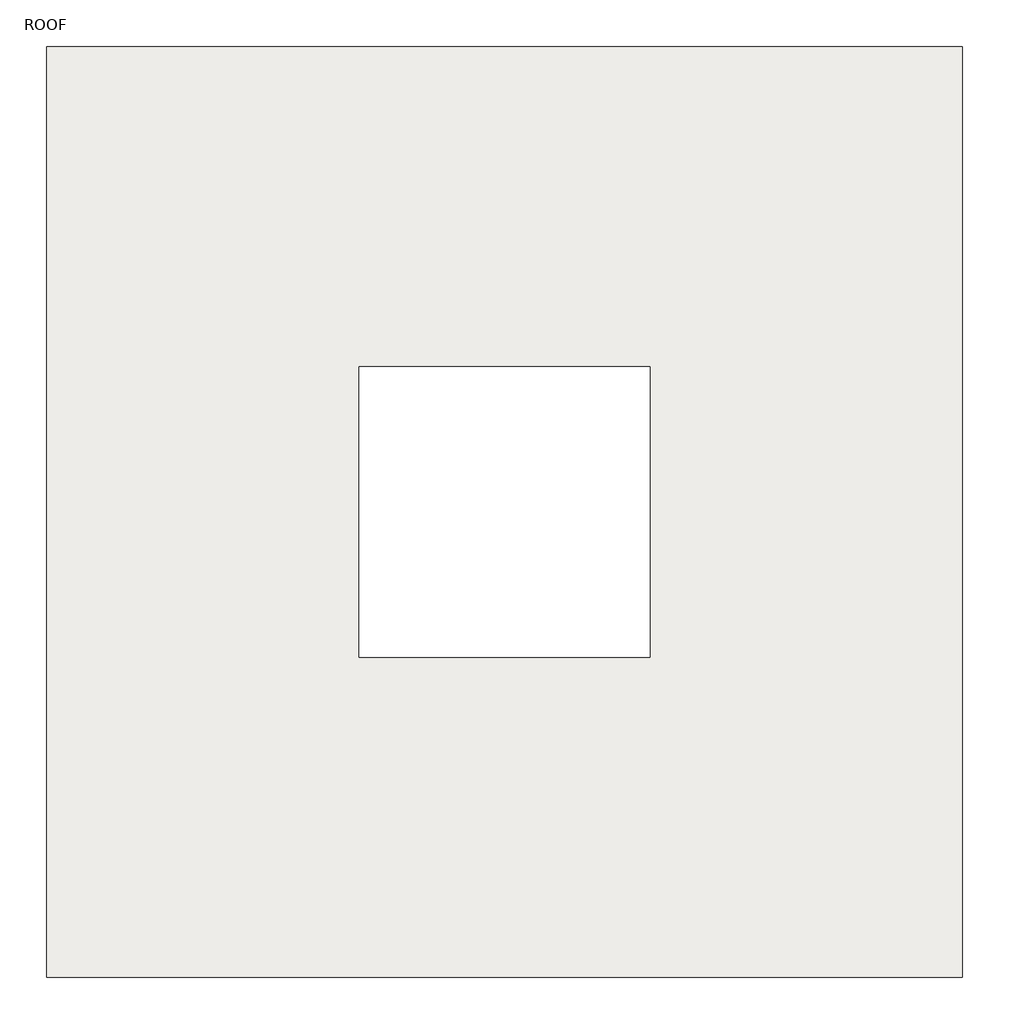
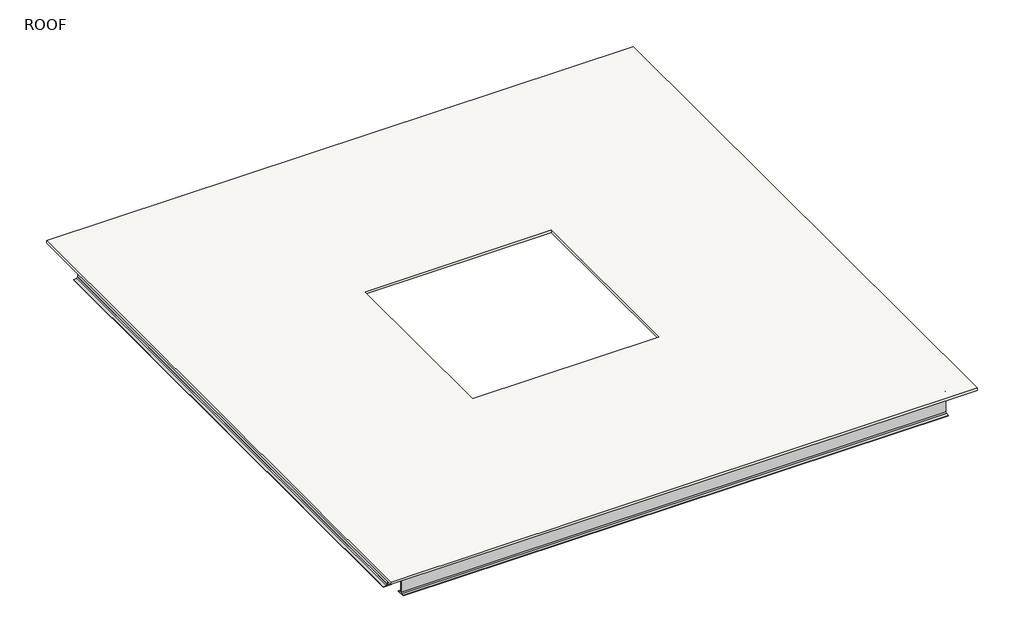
# One storey: 4 beams, 1 slab.
"""IFC4 building model written with IfcOpenShell, lengths in millimetres."""

from ifc_helpers import new_model, si_unit, frame, origin, place, context, project, spatial, polyline, outline, extrude, transform, mapped, element, save
from components import w_wide_flange_w16x26_d7eb271b, w_wide_flange_w16x26_0fd30d8b

model = new_model("IFC4")

# Units and contexts
model_context = context("Model", 3, world=origin())
ifc_project = project(units=[si_unit("LENGTHUNIT", "METRE", prefix="MILLI")], contexts=[model_context])

# Site, building, storey
site = spatial("IfcSite", under=ifc_project)
building = spatial("IfcBuilding", under=site)
storey = spatial("IfcBuildingStorey", under=building, Name="ROOF", Elevation=9144.0)

# Beams
placement = place(None, origin())
w_wide_flange_w16x26_shape = w_wide_flange_w16x26_d7eb271b(model_context)
element("IfcBeam", 1, ObjectType="W-Wide Flange : W16X26", at=placement, inside=storey, context=model_context, shape_type="MappedRepresentation", body=[
    mapped(w_wide_flange_w16x26_shape, transform((0.0, -4572.0, 8881.2191406), x_axis=(-1.0, 0.0, 0.0), y_axis=(0.0, -1.0, 0.0), z_axis=(0.0, 0.0, 1.0))),
])
element("IfcBeam", 2, ObjectType="W-Wide Flange : W16X26", at=placement, inside=storey, context=model_context, shape_type="MappedRepresentation", body=[
    mapped(w_wide_flange_w16x26_shape, transform((0.0, 4572.0, 8881.2191406), x_axis=(-1.0, 0.0, 0.0), y_axis=(0.0, -1.0, 0.0), z_axis=(0.0, 0.0, 1.0))),
])
w_wide_flange_w16x26_2_shape = w_wide_flange_w16x26_0fd30d8b(model_context)
element("IfcBeam", 3, ObjectType="W-Wide Flange : W16X26", at=placement, inside=storey, context=model_context, shape_type="MappedRepresentation", body=[
    mapped(w_wide_flange_w16x26_2_shape, transform((-4572.0, 0.0, 8944.7191406), x_axis=(0.0, 1.0, 0.0), y_axis=(-1.0, 0.0, 0.0), z_axis=(0.0, 0.0, 1.0))),
])
element("IfcBeam", 4, ObjectType="W-Wide Flange : W16X26", at=placement, inside=storey, context=model_context, shape_type="MappedRepresentation", body=[
    mapped(w_wide_flange_w16x26_2_shape, transform((4572.0, 0.0, 8944.7191406), x_axis=(0.0, 1.0, 0.0), y_axis=(-1.0, 0.0, 0.0), z_axis=(0.0, 0.0, 1.0))),
])

# Slab
element("IfcSlab", 5, ObjectType="1 1/2\" Metal Roof Deck", at=placement, inside=storey, context=model_context, shape_type="SweptSolid", body=[
    extrude(outline(polyline([(4800.6, 4876.8), (4800.6, -4876.8), (-4800.6, -4876.8), (-4800.6, 4876.8), (4800.6, 4876.8)]), holes=[polyline([(1524.0, -1524.0), (1524.0, 1524.0), (-1524.0, 1524.0), (-1524.0, -1524.0), (1524.0, -1524.0)])]), frame((0.0, 0.0, 9144.0), z_axis=(0.0, 0.0, 1.0), x_axis=(1.0, 0.0, 0.0)), (0.0, 0.0, 1.0), 38.1),
])

save(model, "model.ifc")
